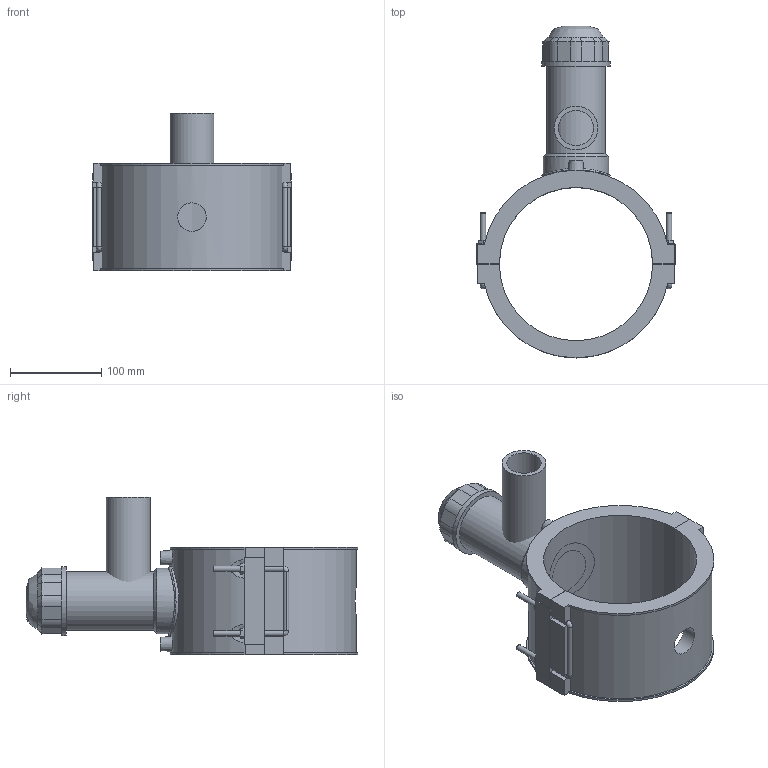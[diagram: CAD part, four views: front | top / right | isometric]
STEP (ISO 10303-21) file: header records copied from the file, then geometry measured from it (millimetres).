
FILE_DESCRIPTION(/* description */ ('PLASSON TAPPING SADDLE 6''''IPS x 1 1/2''''IPS'),/* implementation_level */ '2;1');
FILE_NAME(/* name */ 'C:\Dropbox\KIMPROJECTS-Inventor 2019\99-16-3568-Processing Inch\ASTM ElectroFusion 2021\5963BBP_5963BUP\5963BBP3060015.ipt.stp',/* time_stamp */ '2021-08-30T09:57:21+03:00',/* author */ ('KIM'),/* organization */ (''),/* preprocessor_version */ 'ST-DEVELOPER v17.2',/* originating_system */ 'Autodesk Inventor 2019',/* authorisation */ '');
FILE_SCHEMA (('AUTOMOTIVE_DESIGN { 1 0 10303 214 3 1 1 }'));
Length unit declared in the file: inch
Products named in the file (1): 5963BBP3060015
Bounding box: 217.9 x 363.85 x 173.1 mm (x, y, z)
Volume: 1657420.6 mm3; surface area: 289631.3 mm2
Topology: 3 solids, 3 shells, 187 faces, 489 edges, 313 vertices
Faces by surface type: plane 115, cylinder 47, cone 15, bspline 10
Full cylindrical faces by diameter (mm): 4 x2, 6 x8, 10 x2, 31.36 x1, 38.48 x1, 48.1 x1, 52.92 x1, 64.26 x1, 71.82 x1, 75.6 x2
Entity records: 6744 total; most frequent: CARTESIAN_POINT 2109, ORIENTED_EDGE 962, DIRECTION 932, EDGE_CURVE 481, AXIS2_PLACEMENT_3D 315, VERTEX_POINT 313, LINE 302, VECTOR 302
